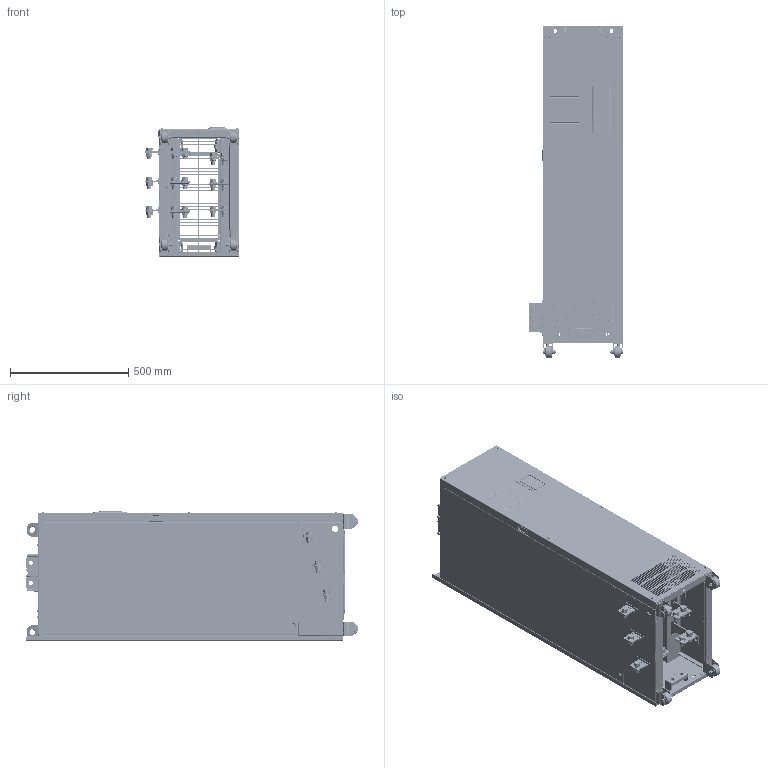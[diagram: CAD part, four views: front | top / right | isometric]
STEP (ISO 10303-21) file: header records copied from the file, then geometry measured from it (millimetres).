
FILE_DESCRIPTION((''),'2;1');
FILE_NAME('000-MVT454ZG-520_ASM','2021-12-14T',('h2718'),(''),'CREO PARAMETRIC BY PTC INC, 2015290','CREO PARAMETRIC BY PTC INC, 2015290','');
FILE_SCHEMA(('AP203_CONFIGURATION_CONTROLLED_3D_DESIGN_OF_MECHANICAL_PARTS_AND_ASSEMBLIES_MIM_LF { 1 0 10303 403 2 1 2 }'));
Products named in the file (81): 20310746-LJ_AF1_4; 20310746-LJ_AF0_ASM_3_ASM; 20310738-LJ_AF1_4_1; 20310738-LJ_AF1_4_2; 20310738-LJ_AF1_4_ASM; 20310738-LJ_AF0_ASM_5_ASM; 20310742-LJ_AF1_4_1; 20310742-LJ_AF1_4_2; 20310742-LJ_AF1_4_ASM; 20310742-LJ_AF0_ASM_4_ASM; 20310745-LJ_AF1_5; 20310745-LJ_AF0_ASM_6_ASM; 20310758-LJ_3; HC-NZ-M16-ZC_1; 20310758-LJ_ASM_2_ASM; 20310757-LJ_2; 20110150-ZP_ASM_5_ASM; 20460221-LJ_6; 20460221-LJ_ASM_7_ASM; 20460222-LJ_8; 20460222-LJ_ASM_8_ASM; SIT2013ADF2; HC-TPR-5-10-SL; 20460223-LJ_ASM_3_ASM; 20310755-LJ_3; 20310755-LJ_ASM_2_ASM; 20310754-LJ_1; 20130203-ZP_ASM_4_ASM; 20460224-LJ_1_1; 20460224-LJ_1_2; 20460224-LJ_1_ASM; 20190062-ZP_ASM_10_ASM; 20320919-LJ_AF1_2; HC-S-M4-ZC-R0_3; 20320919-LJ_AF0_ASM_1_ASM; 20320920-LJ_AF1_2; 20320920-LJ_AF0_ASM_1_ASM; 20320911-LJ_AF0_7; 20320915-LJ_AF0_8; 20320913-LJ_AF0_5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
Assembly tree (185 placements, depth 7):
  000-MVT454ZG-520_ASM
    MVT324ZG_ASM_25_ASM
      20190062-ZP_ASM_10_ASM
        20110150-ZP_ASM_5_ASM
          20310746-LJ_AF0_ASM_3_ASM
            20310746-LJ_AF1_4
          20310738-LJ_AF0_ASM_5_ASM
            20310738-LJ_AF1_4_ASM
              20310738-LJ_AF1_4_1
              20310738-LJ_AF1_4_2
          20310742-LJ_AF0_ASM_4_ASM
            20310742-LJ_AF1_4_ASM
              20310742-LJ_AF1_4_1
              20310742-LJ_AF1_4_2
          20310745-LJ_AF0_ASM_6_ASM
            20310745-LJ_AF1_5
          20310758-LJ_ASM_2_ASM
            20310758-LJ_3
            HC-NZ-M16-ZC_1  x2
          20310757-LJ_2  x2
        20460221-LJ_ASM_7_ASM
          20460221-LJ_6
        20460222-LJ_ASM_8_ASM
          20460222-LJ_8
        20460223-LJ_ASM_3_ASM
          SIT2013ADF2
          HC-TPR-5-10-SL
        20130203-ZP_ASM_4_ASM  x2
          20310755-LJ_ASM_2_ASM
            20310755-LJ_3
          20310754-LJ_1
        20460224-LJ_1_ASM
          20460224-LJ_1_1
          20460224-LJ_1_2
      20320568-ZP_ASM_8_ASM
        20320919-LJ_AF0_ASM_1_ASM
          20320919-LJ_AF1_2
          HC-S-M4-ZC-R0_3
        20320920-LJ_AF0_ASM_1_ASM
          20320920-LJ_AF1_2
          HC-S-M4-ZC-R0_3
        20320911-LJ_AF0_7
        20320915-LJ_AF0_8
        20320913-LJ_AF0_5
      20320959-ZP_ASM_5_ASM
        20320905-LJ_AF0_ASM_3_ASM
          20320905-LJ_AF1_3
        20320902-LJ_AF0_ASM_3_ASM
          20320902-LJ_AF1_3
        20320908-LJ_AF0_ASM_4_ASM
          20320908-LJ_AF1_3
          HC-S-M6-ZC_AF0_1
          HC-S-M6-ZC_AF1_1
      20320953-LJ_ASM_3_ASM  x3
        20320953-LJ_1
        HC-S-M4-ZC_2
      20180084-LJ_1  x4
      19020408-LJ_1  x2
      21030044_2  x4
      20210022-LJ_1  x3
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Bounding box: 400.66 x 1403.05 x 547.28 mm (x, y, z)
Volume: 7027458.8 mm3; surface area: 7728649.4 mm2
Topology: 200 solids, 218 shells, 15430 faces, 41717 edges, 26946 vertices
Faces by surface type: plane 9451, cylinder 3816, cone 1217, bspline 489, torus 336, extrusion 70, sphere 41, revolution 10
Entity records: 497166 total; most frequent: CARTESIAN_POINT 102009, ORIENTED_EDGE 58866, DIRECTION 57341, PRESENTATION_STYLE_ASSIGNMENT 32388, STYLED_ITEM 29889, CURVE_STYLE 29804, EDGE_CURVE 29462, VECTOR 20690
